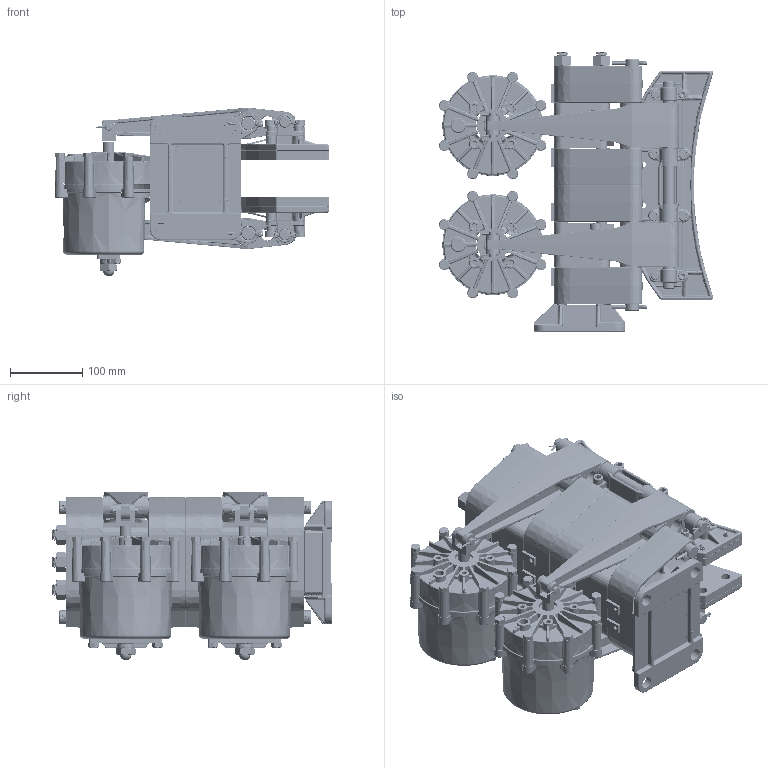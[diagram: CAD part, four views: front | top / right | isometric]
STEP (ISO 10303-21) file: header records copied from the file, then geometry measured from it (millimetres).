
FILE_DESCRIPTION (( 'STEP AP214' ), '1' );
FILE_NAME ('5022-SA-LH.STEP', '2016-06-02T17:29:08', ( 'User' ), ( 'Microsoft' ), 'SwSTEP 2.0', 'SolidWorks 2015', '' );
FILE_SCHEMA (( 'AUTOMOTIVE_DESIGN' ));
Length unit declared in the file: inch
Products named in the file (1): 5022-SA-LH
Bounding box: 380.38 x 387.35 x 234.08 mm (x, y, z)
Surface area: 1163595.5 mm2 (no closed solid volume)
Topology: 0 solids, 203 shells, 5453 faces, 17723 edges, 11747 vertices
Faces by surface type: cylinder 1567, plane 1343, bspline 915, cone 856, torus 738, sphere 34
Entity records: 345571 total; most frequent: CARTESIAN_POINT 136530, ORIENTED_EDGE 27730, DIRECTION 26913, EDGE_CURVE 17627, VERTEX_POINT 11747, AXIS2_PLACEMENT_3D 10793, CIRCLE 6254, EDGE_LOOP 5893
